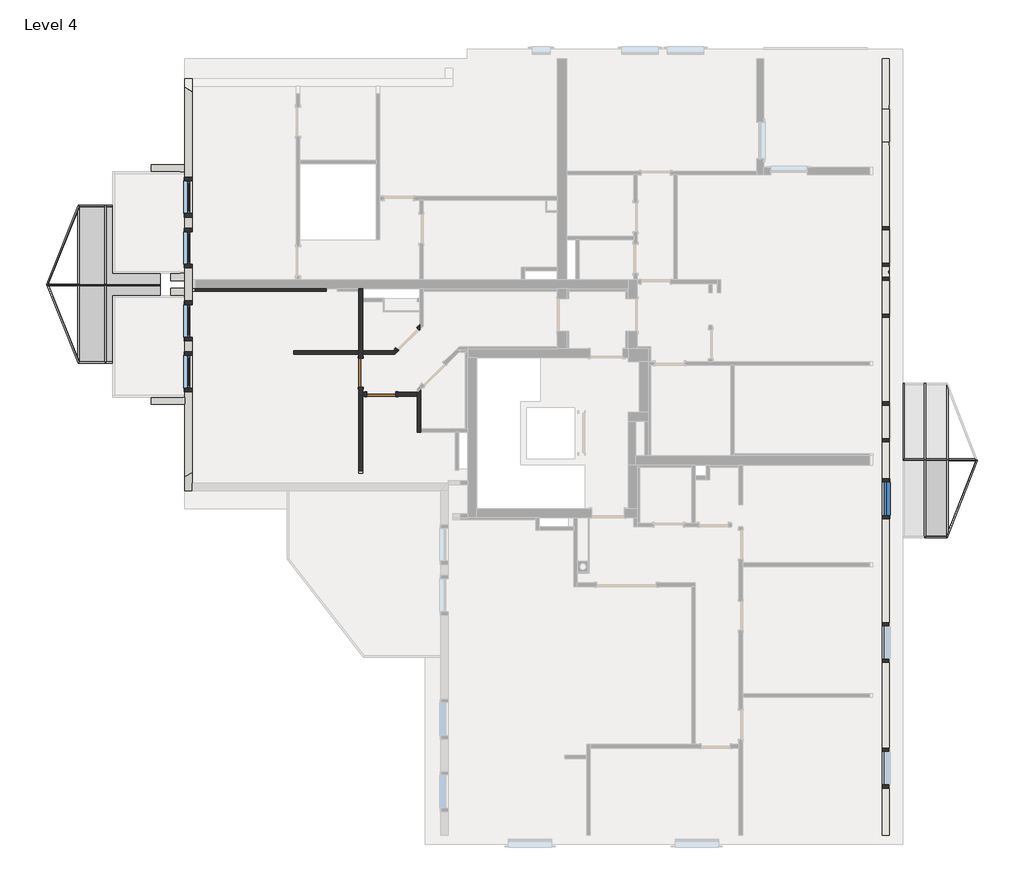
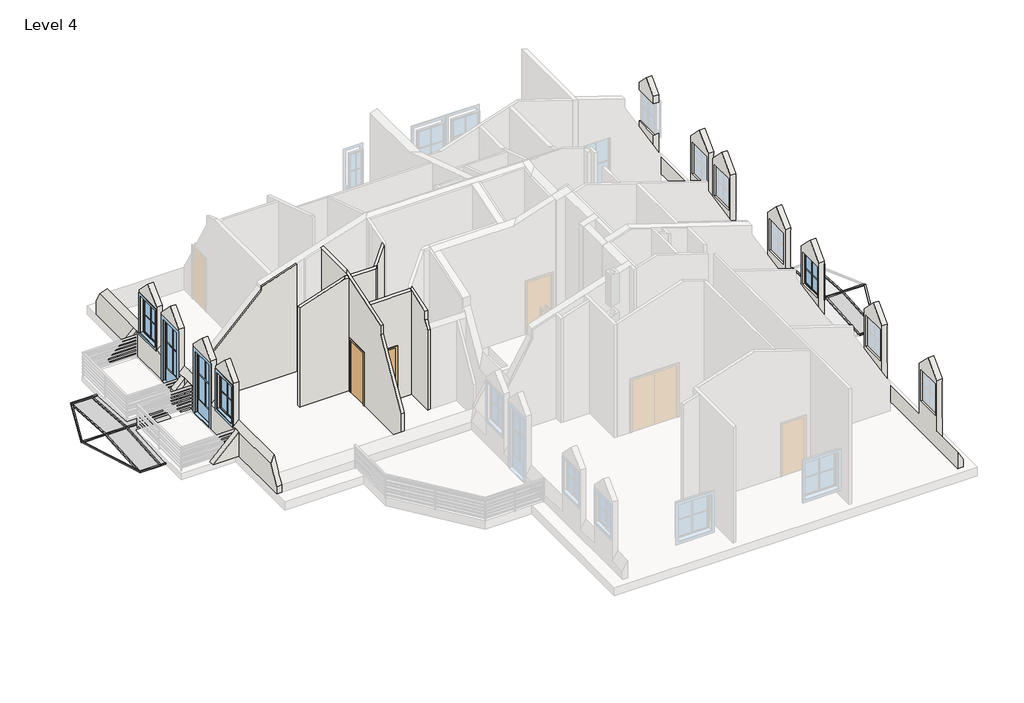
# One storey, part 2 of 4: 23 members, 13 walls, 5 plates, 5 windows, 2 doors.
"""IFC4 building model written with IfcOpenShell, lengths in millimetres."""

from ifc_helpers import new_model, si_unit, frame, origin, place, context, project, spatial, polyline, outline, extrude, faceted_brep, transform, mapped, element, save
from components import standard_door_sd_800x2000_6a16926d, rectangular_mullion_40_40_c07c6f16, rectangular_mullion_40_40_c2750e26, rectangular_mullion_40_40_65788530, rectangular_mullion_40_40_b48b72c3, rectangular_mullion_40_40_590cdca0, rectangular_mullion_40_40_5d815b55, rectangular_mullion_40_40_14cc0a15, rectangular_mullion_40_40_db6aeea2, rectangular_mullion_40_40_e7126e77, rectangular_mullion_40_40_ece98a2e, rectangular_mullion_40_40_458ec4b7, rectangular_mullion_40_40_953930e1, rectangular_mullion_40_40_e268152e, rectangular_mullion_40_40_4fb1e333, rectangular_mullion_40_40_b2ab2fb7, rectangular_mullion_40_40_0157c378, rectangular_mullion_40_40_89549069, rectangular_mullion_40_40_147f6145, rectangular_mullion_40_40_78ab8ff1, system_panel_system_panel_37f665d0, system_panel_system_panel_7bef43a2, system_panel_system_panel_15dd2017, system_panel_system_panel_e4e5b0d0, system_panel_system_panel_76da7413, standard_window_with_mullions_4ddc0d11, standard_window_with_mullions_4f38f980, window_2_c3f3d78e, window_2_1320fec1

model = new_model("IFC4")

# Units and contexts
model_context = context("Model", 3, world=origin())
ifc_project = project(units=[si_unit("LENGTHUNIT", "METRE", prefix="MILLI")], contexts=[model_context])

# Site, building, storey
site = spatial("IfcSite", under=ifc_project)
building = spatial("IfcBuilding", under=site)
storey = spatial("IfcBuildingStorey", under=building, Name="Level 4", Elevation=11800.0)

# Doors
placement = place(None, origin())
standard_door_sd_800x2000_shape = standard_door_sd_800x2000_6a16926d(model_context)
element("IfcDoor", 1, ObjectType="Standard Door : SD 800x2000", at=placement, inside=storey, context=model_context, shape_type="MappedRepresentation", body=[
    mapped(standard_door_sd_800x2000_shape, transform((-5807.1962165, 1908.3946515, 11800.0), x_axis=(0.0, -1.0, 0.0), y_axis=(1.0, 0.0, 0.0), z_axis=(0.0, 0.0, 1.0))),
])
element("IfcDoor", 2, ObjectType="Standard Door : SD 800x2000", at=placement, inside=storey, context=model_context, shape_type="MappedRepresentation", body=[
    mapped(standard_door_sd_800x2000_shape, transform((-5239.8211798, 1317.6290541, 11800.0), x_axis=(1.0, 0.0, 0.0), y_axis=(0.0, 1.0, 0.0), z_axis=(0.0, 0.0, 1.0))),
])

# Members
rectangular_mullion_40_40_shape = rectangular_mullion_40_40_c07c6f16(model_context)
element("IfcMember", 3, ObjectType="Rectangular Mullion : 40/40", at=placement, inside=storey, context=model_context, shape_type="MappedRepresentation", body=[
    mapped(rectangular_mullion_40_40_shape, transform((-12817.1962165, 4342.6290541, 11681.4726398), x_axis=(0.0, 0.9975640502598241, 0.06975647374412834), y_axis=(0.0, 0.06975647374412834, -0.9975640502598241), z_axis=(-1.0, 0.0, 0.0))),
])
rectangular_mullion_40_40_2_shape = rectangular_mullion_40_40_c2750e26(model_context)
element("IfcMember", 4, ObjectType="Rectangular Mullion : 40/40", at=placement, inside=storey, context=model_context, shape_type="MappedRepresentation", body=[
    mapped(rectangular_mullion_40_40_2_shape, transform((-13567.1962165, 4342.6290541, 11681.4726398), x_axis=(0.0, 0.9975640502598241, 0.06975647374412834), y_axis=(0.0, 0.06975647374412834, -0.9975640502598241), z_axis=(-1.0, 0.0, 0.0))),
])
rectangular_mullion_40_40_3_shape = rectangular_mullion_40_40_65788530(model_context)
element("IfcMember", 5, ObjectType="Rectangular Mullion : 40/40", at=placement, inside=storey, context=model_context, shape_type="MappedRepresentation", body=[
    mapped(rectangular_mullion_40_40_3_shape, transform((10338.0299794, -507.3709459, 11678.5944754), x_axis=(0.0, -0.9975640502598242, 0.06975647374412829), y_axis=(0.0, -0.06975647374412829, -0.9975640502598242), z_axis=(1.0, 0.0, 0.0))),
])
rectangular_mullion_40_40_4_shape = rectangular_mullion_40_40_b48b72c3(model_context)
element("IfcMember", 6, ObjectType="Rectangular Mullion : 40/40", at=placement, inside=storey, context=model_context, shape_type="MappedRepresentation", body=[
    mapped(rectangular_mullion_40_40_4_shape, transform((9725.4168815, -507.3709459, 11678.5944754), x_axis=(0.0, -0.9975640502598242, 0.06975647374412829), y_axis=(0.0, -0.06975647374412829, -0.9975640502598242), z_axis=(1.0, 0.0, 0.0))),
])
rectangular_mullion_40_40_5_shape = rectangular_mullion_40_40_590cdca0(model_context)
element("IfcMember", 7, ObjectType="Rectangular Mullion : 40/40", at=placement, inside=storey, context=model_context, shape_type="MappedRepresentation", body=[
    mapped(rectangular_mullion_40_40_5_shape, transform((-12837.1962165, 4342.6290541, 11681.4726398), x_axis=(1.0, 0.0, 0.0), y_axis=(0.0, 0.06975647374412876, -0.997564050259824), z_axis=(0.0, 0.997564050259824, 0.06975647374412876))),
])
element("IfcMember", 8, ObjectType="Rectangular Mullion : 40/40", at=placement, inside=storey, context=model_context, shape_type="MappedRepresentation", body=[
    mapped(rectangular_mullion_40_40_shape, transform((-12817.1962165, 6517.6290541, 11529.3818239), x_axis=(0.0, 0.9975640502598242, -0.06975647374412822), y_axis=(0.0, -0.06975647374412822, -0.9975640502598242), z_axis=(-1.0, 0.0, 0.0))),
])
element("IfcMember", 9, ObjectType="Rectangular Mullion : 40/40", at=placement, inside=storey, context=model_context, shape_type="MappedRepresentation", body=[
    mapped(rectangular_mullion_40_40_shape, transform((-11337.1962165, 2167.6290541, 11529.3818239), x_axis=(0.0, -0.9975640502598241, -0.06975647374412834), y_axis=(0.0, 0.06975647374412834, -0.9975640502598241), z_axis=(1.0, 0.0, 0.0))),
])
rectangular_mullion_40_40_6_shape = rectangular_mullion_40_40_5d815b55(model_context)
element("IfcMember", 10, ObjectType="Rectangular Mullion : 40/40", at=placement, inside=storey, context=model_context, shape_type="MappedRepresentation", body=[
    mapped(rectangular_mullion_40_40_6_shape, transform((9745.4168815, -507.3709459, 11678.5944754), x_axis=(-1.0, 0.0, 0.0), y_axis=(0.0, -0.0697564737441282, -0.9975640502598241), z_axis=(0.0, -0.997564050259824, 0.06975647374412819))),
])
rectangular_mullion_40_40_7_shape = rectangular_mullion_40_40_14cc0a15(model_context)
element("IfcMember", 11, ObjectType="Rectangular Mullion : 40/40", at=placement, inside=storey, context=model_context, shape_type="MappedRepresentation", body=[
    mapped(rectangular_mullion_40_40_7_shape, transform((9132.8037835, -507.3709459, 11678.5944754), x_axis=(-1.0, 0.0, 0.0), y_axis=(0.0, -0.0697564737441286, -0.9975640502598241), z_axis=(0.0, -0.997564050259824, 0.06975647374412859))),
])
element("IfcMember", 12, ObjectType="Rectangular Mullion : 40/40", at=placement, inside=storey, context=model_context, shape_type="MappedRepresentation", body=[
    mapped(rectangular_mullion_40_40_5_shape, transform((-12837.1962165, 4342.6290541, 11681.4726398), x_axis=(-1.0, 0.0, 0.0), y_axis=(0.0, -0.06975647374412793, -0.9975640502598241), z_axis=(0.0, -0.997564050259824, 0.06975647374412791))),
])
element("IfcMember", 13, ObjectType="Rectangular Mullion : 40/40", at=placement, inside=storey, context=model_context, shape_type="MappedRepresentation", body=[
    mapped(rectangular_mullion_40_40_6_shape, transform((9745.4168815, -507.3709459, 11678.5944754), x_axis=(1.0, 0.0, 0.0), y_axis=(0.0, 0.06975647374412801, -0.9975640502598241), z_axis=(0.0, 0.997564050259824, 0.069756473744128))),
])
rectangular_mullion_40_40_8_shape = rectangular_mullion_40_40_db6aeea2(model_context)
element("IfcMember", 14, ObjectType="Rectangular Mullion : 40/40", at=placement, inside=storey, context=model_context, shape_type="MappedRepresentation", body=[
    mapped(rectangular_mullion_40_40_8_shape, transform((-13587.1962165, 4342.6290541, 11681.4726398), x_axis=(1.0, 0.0, 0.0), y_axis=(0.0, 0.06975647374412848, -0.9975640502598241), z_axis=(0.0, 0.997564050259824, 0.06975647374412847))),
])
rectangular_mullion_40_40_9_shape = rectangular_mullion_40_40_e7126e77(model_context)
element("IfcMember", 15, ObjectType="Rectangular Mullion : 40/40", at=placement, inside=storey, context=model_context, shape_type="MappedRepresentation", body=[
    mapped(rectangular_mullion_40_40_9_shape, transform((-13587.1962165, 4342.6290541, 11681.4726398), x_axis=(-1.0, 0.0, 0.0), y_axis=(0.0, -0.06975647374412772, -0.9975640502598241), z_axis=(0.0, -0.9975640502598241, 0.06975647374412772))),
])
rectangular_mullion_40_40_10_shape = rectangular_mullion_40_40_ece98a2e(model_context)
element("IfcMember", 16, ObjectType="Rectangular Mullion : 40/40", at=placement, inside=storey, context=model_context, shape_type="MappedRepresentation", body=[
    mapped(rectangular_mullion_40_40_10_shape, transform((-14465.4329195, 4342.6290541, 11681.4726398), x_axis=(0.0, 0.9975640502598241, 0.06975647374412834), y_axis=(0.0, 0.06975647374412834, -0.9975640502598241), z_axis=(-1.0, 0.0, 0.0))),
])
rectangular_mullion_40_40_11_shape = rectangular_mullion_40_40_458ec4b7(model_context)
element("IfcMember", 17, ObjectType="Rectangular Mullion : 40/40", at=placement, inside=storey, context=model_context, shape_type="MappedRepresentation", body=[
    mapped(rectangular_mullion_40_40_11_shape, transform((-13587.1962165, 6517.6290541, 11529.3818239), x_axis=(0.0, 0.9975640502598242, -0.06975647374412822), y_axis=(0.0, -0.06975647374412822, -0.9975640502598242), z_axis=(-1.0, 0.0, 0.0))),
])
rectangular_mullion_40_40_12_shape = rectangular_mullion_40_40_953930e1(model_context)
element("IfcMember", 18, ObjectType="Rectangular Mullion : 40/40", at=placement, inside=storey, context=model_context, shape_type="MappedRepresentation", body=[
    mapped(rectangular_mullion_40_40_12_shape, transform((-12857.1962165, 2167.6290541, 11529.3818239), x_axis=(0.0, -0.9975640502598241, -0.06975647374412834), y_axis=(0.0, 0.06975647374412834, -0.9975640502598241), z_axis=(1.0, 0.0, 0.0))),
])
rectangular_mullion_40_40_13_shape = rectangular_mullion_40_40_e268152e(model_context)
element("IfcMember", 19, ObjectType="Rectangular Mullion : 40/40", at=placement, inside=storey, context=model_context, shape_type="MappedRepresentation", body=[
    mapped(rectangular_mullion_40_40_13_shape, transform((-13587.1962165, 2167.6290541, 11529.3818239), x_axis=(-0.9275773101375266, -0.3727211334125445, -0.026063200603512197), y_axis=(0.0, 0.06975647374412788, -0.9975640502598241), z_axis=(0.37363128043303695, -0.925317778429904, -0.06470452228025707))),
])
rectangular_mullion_40_40_14_shape = rectangular_mullion_40_40_4fb1e333(model_context)
element("IfcMember", 20, ObjectType="Rectangular Mullion : 40/40", at=placement, inside=storey, context=model_context, shape_type="MappedRepresentation", body=[
    mapped(rectangular_mullion_40_40_14_shape, transform((-14465.4329195, 4342.6290541, 11681.4726398), x_axis=(-0.9275773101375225, 0.37272113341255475, -0.026063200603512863), y_axis=(0.0, -0.06975647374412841, -0.9975640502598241), z_axis=(-0.37363128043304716, -0.9253177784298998, 0.06470452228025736))),
])
rectangular_mullion_40_40_15_shape = rectangular_mullion_40_40_b2ab2fb7(model_context)
element("IfcMember", 21, ObjectType="Rectangular Mullion : 40/40", at=placement, inside=storey, context=model_context, shape_type="MappedRepresentation", body=[
    mapped(rectangular_mullion_40_40_15_shape, transform((10358.0299794, -507.3709459, 11678.5944754), x_axis=(-1.0, 0.0, 0.0), y_axis=(0.0, -0.06975647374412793, -0.9975640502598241), z_axis=(0.0, -0.9975640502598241, 0.06975647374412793))),
])
rectangular_mullion_40_40_16_shape = rectangular_mullion_40_40_0157c378(model_context)
element("IfcMember", 22, ObjectType="Rectangular Mullion : 40/40", at=placement, inside=storey, context=model_context, shape_type="MappedRepresentation", body=[
    mapped(rectangular_mullion_40_40_16_shape, transform((10358.0299794, -507.3709459, 11678.5944754), x_axis=(1.0, 0.0, 0.0), y_axis=(0.0, 0.06975647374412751, -0.9975640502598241), z_axis=(0.0, 0.997564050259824, 0.0697564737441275))),
])
rectangular_mullion_40_40_17_shape = rectangular_mullion_40_40_89549069(model_context)
element("IfcMember", 23, ObjectType="Rectangular Mullion : 40/40", at=placement, inside=storey, context=model_context, shape_type="MappedRepresentation", body=[
    mapped(rectangular_mullion_40_40_17_shape, transform((11184.5471242, -507.3709459, 11678.5944754), x_axis=(0.9322837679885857, -0.3608466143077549, -0.02523285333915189), y_axis=(0.0, 0.06975647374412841, -0.9975640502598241), z_axis=(0.36172776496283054, 0.9300127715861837, 0.0650328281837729))),
])
rectangular_mullion_40_40_18_shape = rectangular_mullion_40_40_147f6145(model_context)
element("IfcMember", 24, ObjectType="Rectangular Mullion : 40/40", at=placement, inside=storey, context=model_context, shape_type="MappedRepresentation", body=[
    mapped(rectangular_mullion_40_40_18_shape, transform((11184.5471242, -507.3709459, 11678.5944754), x_axis=(0.0, -0.9975640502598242, 0.06975647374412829), y_axis=(0.0, -0.06975647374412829, -0.9975640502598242), z_axis=(1.0, 0.0, 0.0))),
])
rectangular_mullion_40_40_19_shape = rectangular_mullion_40_40_78ab8ff1(model_context)
element("IfcMember", 25, ObjectType="Rectangular Mullion : 40/40", at=placement, inside=storey, context=model_context, shape_type="MappedRepresentation", body=[
    mapped(rectangular_mullion_40_40_19_shape, transform((10358.0299794, -2632.3709459, 11530.0), x_axis=(0.0, -0.9975640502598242, -0.06975647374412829), y_axis=(0.0, 0.06975647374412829, -0.9975640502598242), z_axis=(1.0, 0.0, 0.0))),
])

# Plates
system_panel_system_panel_shape = system_panel_system_panel_37f665d0(model_context)
element("IfcPlate", 26, ObjectType="System Panel : System Panel", at=placement, inside=storey, context=model_context, shape_type="MappedRepresentation", body=[
    mapped(system_panel_system_panel_shape, transform((-12077.1962165, 6477.7264921, 11532.1720828), x_axis=(-1.0, 0.0, 0.0), y_axis=(0.0, -0.06975647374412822, -0.9975640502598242), z_axis=(0.0, -0.9975640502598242, 0.06975647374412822))),
])
system_panel_system_panel_2_shape = system_panel_system_panel_7bef43a2(model_context)
element("IfcPlate", 27, ObjectType="System Panel : System Panel", at=placement, inside=storey, context=model_context, shape_type="MappedRepresentation", body=[
    mapped(system_panel_system_panel_2_shape, transform((-12077.1962165, 2207.5316161, 11532.1720828), x_axis=(1.0, 0.0, 0.0), y_axis=(0.0, 0.06975647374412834, -0.9975640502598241), z_axis=(0.0, 0.9975640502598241, 0.06975647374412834))),
])
system_panel_system_panel_3_shape = system_panel_system_panel_15dd2017(model_context)
element("IfcPlate", 28, ObjectType="System Panel : System Panel", at=placement, inside=storey, context=model_context, shape_type="MappedRepresentation", body=[
    mapped(system_panel_system_panel_3_shape, transform((-13212.1962165, 2207.5316161, 11532.1720828), x_axis=(1.0, 0.0, 0.0), y_axis=(0.0, 0.06975647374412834, -0.9975640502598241), z_axis=(0.0, 0.9975640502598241, 0.06975647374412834))),
])
system_panel_system_panel_4_shape = system_panel_system_panel_e4e5b0d0(model_context)
element("IfcPlate", 29, ObjectType="System Panel : System Panel", at=placement, inside=storey, context=model_context, shape_type="MappedRepresentation", body=[
    mapped(system_panel_system_panel_4_shape, transform((-13212.1962165, 6477.7264921, 11532.1720828), x_axis=(-1.0, 0.0, 0.0), y_axis=(0.0, -0.06975647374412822, -0.9975640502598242), z_axis=(0.0, -0.9975640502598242, 0.06975647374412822))),
])
system_panel_system_panel_5_shape = system_panel_system_panel_76da7413(model_context)
element("IfcPlate", 30, ObjectType="System Panel : System Panel", at=placement, inside=storey, context=model_context, shape_type="MappedRepresentation", body=[
    mapped(system_panel_system_panel_5_shape, transform((10051.7234305, -2592.4683839, 11532.7902589), x_axis=(1.0, 0.0, 0.0), y_axis=(0.0, 0.06975647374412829, -0.9975640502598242), z_axis=(0.0, 0.9975640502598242, 0.06975647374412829))),
])

# Walls
element("IfcWall", 31, ObjectType="Exterior - 150+50mm", at=placement, inside=storey, context=model_context, shape_type="Brep", body=[
    faceted_brep([(-10456.4352243, -1338.1208451, 11800.0), (-10656.4352243, -1338.1208451, 11800.0), (-10656.4352243, 1037.6290541, 11800.0), (-10656.4352243, 1237.6290541, 11800.0), (-10656.4352243, 2882.6290541, 11800.0), (-10456.4352243, 2882.6290541, 11800.0), (-10456.4352243, -1138.1208451, 11800.0), (-10656.4352243, 10007.6290541, 11800.0), (-10456.4352243, 10007.6290541, 11800.0), (-10456.4352243, 9807.6290541, 11800.0), (-10456.4352243, 5797.6290541, 11800.0), (-10656.4352243, 5797.6290541, 11800.0), (-10656.4352243, 7447.6290541, 11800.0), (-10656.4352243, 7647.6290541, 11800.0), (-10656.4352243, 4897.6290541, 11800.0), (-10456.4352243, 4897.6290541, 11800.0), (-10456.4352243, 4467.6290541, 11800.0), (-10456.4352243, 4217.6290541, 11800.0), (-10456.4352243, 4152.6290541, 11800.0), (-10456.4352243, 3782.6290541, 11800.0), (-10656.4352243, 3782.6290541, 11800.0), (-10656.4352243, 4037.6290541, 11800.0), (-10656.4352243, 4237.6290541, 11800.0), (-10656.4352243, 4447.6290541, 11800.0), (-10656.4352243, 4647.6290541, 11800.0), (-10656.4352243, -1338.1208451, 12079.795831), (-10656.4352243, -962.2859339, 12730.7609923), (-10656.4352243, 1037.6290541, 12730.7609923), (-10656.4352243, 1237.6290541, 12730.7609923), (-10656.4352243, 1387.6290541, 12730.7609923), (-10656.4352243, 1387.6290541, 14387.8679656), (-10656.4352243, 1937.6290541, 14937.8679656), (-10656.4352243, 2487.6290541, 14387.8679656), (-10656.4352243, 2487.6290541, 12730.7609923), (-10656.4352243, 2787.6290541, 12730.7609923), (-10656.4352243, 2787.6290541, 14387.8679656), (-10656.4352243, 3337.6290541, 14937.8679656), (-10656.4352243, 3887.6290541, 14387.8679656), (-10656.4352243, 3887.6290541, 12730.7609923), (-10656.4352243, 4037.6290541, 12730.7609923), (-10656.4352243, 4237.6290541, 12730.7609923), (-10656.4352243, 4447.6290541, 12730.7609923), (-10656.4352243, 4647.6290541, 12730.7609923), (-10656.4352243, 4797.6290541, 12730.7609923), (-10656.4352243, 4797.6290541, 14387.8679656), (-10656.4352243, 5347.6290541, 14937.8679656), (-10656.4352243, 5897.6290541, 14387.8679656), (-10656.4352243, 5897.6290541, 12730.7609923), (-10656.4352243, 6197.6290541, 12730.7609923), (-10656.4352243, 6197.6290541, 14387.8679656), (-10656.4352243, 6747.6290541, 14937.8679656), (-10656.4352243, 7297.6290541, 14387.8679656), (-10656.4352243, 7297.6290541, 12730.7609923), (-10656.4352243, 7447.6290541, 12730.7609923), (-10656.4352243, 7647.6290541, 12730.7609923), (-10656.4352243, 9771.3426296, 12730.7609923), (-10656.4352243, 10007.6290541, 12321.5009), (-10656.4352243, 5797.6290541, 14200.0), (-10656.4352243, 4897.6290541, 14200.0), (-10656.4352243, 3782.6290541, 14200.0), (-10656.4352243, 2882.6290541, 14200.0), (-10656.4352243, 1487.6290541, 14200.0), (-10656.4352243, 1487.6290541, 12800.0), (-10656.4352243, 2387.6290541, 12800.0), (-10656.4352243, 2387.6290541, 14200.0), (-10656.4352243, 6297.6290541, 14200.0), (-10656.4352243, 6297.6290541, 12800.0), (-10656.4352243, 7197.6290541, 12800.0), (-10656.4352243, 7197.6290541, 14200.0), (-10456.4352243, -1338.1208451, 12079.795831), (-10456.4352243, 2882.6290541, 14200.0), (-10456.4352243, 3782.6290541, 14200.0), (-10456.4352243, 4897.6290541, 14200.0), (-10456.4352243, 5797.6290541, 14200.0), (-10456.4352243, 10007.6290541, 12321.5009), (-10456.4352243, 9807.6290541, 12667.9110615), (-10456.4352243, 9655.8725758, 12930.7609923), (-10456.4352243, 7297.6290541, 12930.7609923), (-10456.4352243, 7297.6290541, 14387.8679656), (-10456.4352243, 6747.6290541, 14937.8679656), (-10456.4352243, 6197.6290541, 14387.8679656), (-10456.4352243, 6197.6290541, 12930.7609923), (-10456.4352243, 5897.6290541, 12930.7609923), (-10456.4352243, 5897.6290541, 14387.8679656), (-10456.4352243, 5347.6290541, 14937.8679656), (-10456.4352243, 4797.6290541, 14387.8679656), (-10456.4352243, 4797.6290541, 12930.7609923), (-10456.4352243, 4467.6290541, 12930.7609923), (-10456.4352243, 4217.6290541, 12930.7609923), (-10456.4352243, 4152.6290541, 12930.7609923), (-10456.4352243, 3887.6290541, 12930.7609923), (-10456.4352243, 3887.6290541, 14387.8679656), (-10456.4352243, 3337.6290541, 14937.8679656), (-10456.4352243, 2787.6290541, 14387.8679656), (-10456.4352243, 2787.6290541, 12930.7609923), (-10456.4352243, 2487.6290541, 12930.7609923), (-10456.4352243, 2487.6290541, 14387.8679656), (-10456.4352243, 1937.6290541, 14937.8679656), (-10456.4352243, 1387.6290541, 14387.8679656), (-10456.4352243, 1387.6290541, 12930.7609923), (-10456.4352243, -846.8158801, 12930.7609923), (-10456.4352243, -1138.1208451, 12426.2059925), (-10456.4352243, 1487.6290541, 12800.0), (-10456.4352243, 1487.6290541, 14200.0), (-10456.4352243, 2387.6290541, 14200.0), (-10456.4352243, 2387.6290541, 12800.0), (-10456.4352243, 6297.6290541, 12800.0), (-10456.4352243, 6297.6290541, 14200.0), (-10456.4352243, 7197.6290541, 14200.0), (-10456.4352243, 7197.6290541, 12800.0)], [[[0, 1, 2, 3, 4, 5, 6]], [[7, 8, 9, 10, 11, 12, 13]], [[14, 15, 16, 17, 18, 19, 20, 21, 22, 23, 24]], [[1, 25, 26, 27, 28, 29, 30, 31, 32, 33, 34, 35, 36, 37, 38, 39, 40, 41, 42, 43, 44, 45, 46, 47, 48, 49, 50, 51, 52, 53, 54, 55, 56, 7, 13, 12, 11, 57, 58, 14, 24, 23, 22, 21, 20, 59, 60, 4, 3, 2], [61, 62, 63, 64], [65, 66, 67, 68]], [[69, 0, 6, 5, 70, 71, 19, 18, 17, 16, 15, 72, 73, 10, 9, 8, 74, 75, 76, 77, 78, 79, 80, 81, 82, 83, 84, 85, 86, 87, 88, 89, 90, 91, 92, 93, 94, 95, 96, 97, 98, 99, 100, 101], [102, 103, 104, 105], [106, 107, 108, 109]], [[25, 1, 0, 69]], [[7, 56, 74, 8]], [[98, 30, 29, 99]], [[32, 96, 95, 33]], [[93, 35, 34, 94]], [[37, 91, 90, 38]], [[85, 44, 43, 86]], [[46, 83, 82, 47]], [[80, 49, 48, 81]], [[51, 78, 77, 52]], [[52, 77, 76, 55, 54, 53]], [[25, 69, 101, 100, 26]], [[74, 56, 55, 76, 75]], [[48, 47, 82, 81]], [[38, 90, 89, 88, 87, 86, 43, 42, 41, 40, 39]], [[34, 33, 95, 94]], [[99, 29, 28, 27, 26, 100]], [[83, 46, 45, 84]], [[44, 85, 84, 45]], [[78, 51, 50, 79]], [[49, 80, 79, 50]], [[91, 37, 36, 92]], [[35, 93, 92, 36]], [[96, 32, 31, 97]], [[30, 98, 97, 31]], [[58, 72, 15, 14]], [[72, 58, 57, 73]], [[73, 57, 11, 10]], [[71, 59, 20, 19]], [[59, 71, 70, 60]], [[60, 70, 5, 4]], [[103, 102, 62, 61]], [[104, 103, 61, 64]], [[105, 104, 64, 63]], [[102, 105, 63, 62]], [[106, 66, 65, 107]], [[107, 65, 68, 108]], [[108, 68, 67, 109]], [[66, 106, 109, 67]]]),
])
element("IfcWall", 32, ObjectType="Exterior - 150+50mm", at=placement, inside=storey, context=model_context, shape_type="SweptSolid", body=[
    extrude(outline(polyline([(11800.0, -10656.4352243), (12730.7609923, -10656.4352243), (11800.0, -11587.1962165), (11800.0, -10656.4352243)])), frame((0.0, 7447.6290541, 0.0), z_axis=(0.0, 1.0, 0.0), x_axis=(0.0, 0.0, 1.0)), (0.0, 0.0, 1.0), 200.0),
])
element("IfcWall", 33, ObjectType="Exterior - 150+50mm", at=placement, inside=storey, context=model_context, shape_type="Brep", body=[
    faceted_brep([(8557.3155772, -10832.3709459, 11800.0), (8557.3155772, 10567.6290541, 11800.0), (8757.3155772, 10567.6290541, 11800.0), (8757.3155772, -10832.3709459, 11800.0), (8557.3155772, 8275.6927772, 12437.9668213), (8557.3155772, 8275.6927772, 13000.0), (8557.3155772, 9175.6927772, 13000.0), (8557.3155772, 9175.6927772, 12437.9668213), (8557.3155772, 9275.6927772, 12437.9668213), (8557.3155772, 10567.6290541, 12437.9668213), (8557.3155772, -10832.3709459, 12437.9668213), (8557.3155772, -9532.3709459, 12437.9668213), (8557.3155772, -9532.3709459, 14387.8679656), (8557.3155772, -8982.3709459, 14937.8679656), (8557.3155772, -8432.3709459, 14387.8679656), (8557.3155772, -8432.3709459, 12437.9668213), (8557.3155772, -6074.0530367, 12437.9668213), (8557.3155772, -6074.0530367, 14387.8679656), (8557.3155772, -5524.0530367, 14937.8679656), (8557.3155772, -4974.0530367, 14387.8679656), (8557.3155772, -4974.0530367, 12437.9668213), (8557.3155772, -2113.5367865, 12437.9668213), (8557.3155772, -2113.5367865, 14387.8679656), (8557.3155772, -1563.5367865, 14937.8679656), (8557.3155772, -1013.5367865, 14387.8679656), (8557.3155772, -1013.5367865, 12437.9668213), (8557.3155772, 5.9947187, 12437.9668213), (8557.3155772, 5.9947187, 14387.8679656), (8557.3155772, 555.9947187, 14937.8679656), (8557.3155772, 1105.9947187, 14387.8679656), (8557.3155772, 1105.9947187, 12437.9668213), (8557.3155772, 3438.4530256, 12437.9668213), (8557.3155772, 3438.4530256, 14387.8679656), (8557.3155772, 3988.4530256, 14937.8679656), (8557.3155772, 4538.4530256, 14387.8679656), (8557.3155772, 4538.4530256, 12437.9668213), (8557.3155772, 4838.4530256, 12437.9668213), (8557.3155772, 4838.4530256, 14387.8679656), (8557.3155772, 5388.4530256, 14937.8679656), (8557.3155772, 5938.4530256, 14387.8679656), (8557.3155772, 5938.4530256, 12437.9668213), (8557.3155772, 8175.6927772, 12437.9668213), (8557.3155772, 4438.4530256, 13000.0), (8557.3155772, 4438.4530256, 14200.0), (8557.3155772, 3538.4530256, 14200.0), (8557.3155772, 3538.4530256, 13000.0), (8557.3155772, 5838.4530256, 13000.0), (8557.3155772, 5838.4530256, 14200.0), (8557.3155772, 4938.4530256, 14200.0), (8557.3155772, 4938.4530256, 13000.0), (8557.3155772, 1005.9947187, 13000.0), (8557.3155772, 1005.9947187, 14200.0), (8557.3155772, 105.9947187, 14200.0), (8557.3155772, 105.9947187, 13000.0), (8557.3155772, -1113.5367865, 13000.0), (8557.3155772, -1113.5367865, 14200.0), (8557.3155772, -2013.5367865, 14200.0), (8557.3155772, -2013.5367865, 13000.0), (8557.3155772, -5074.0530367, 13000.0), (8557.3155772, -5074.0530367, 14200.0), (8557.3155772, -5974.0530367, 14200.0), (8557.3155772, -5974.0530367, 13000.0), (8557.3155772, -8532.3709459, 13000.0), (8557.3155772, -8532.3709459, 14200.0), (8557.3155772, -9432.3709459, 14200.0), (8557.3155772, -9432.3709459, 13000.0), (8757.3155772, 9175.6927772, 13000.0), (8757.3155772, 8275.6927772, 13000.0), (8757.3155772, 8275.6927772, 12091.5566597), (8757.3155772, 5938.4530256, 12091.5566597), (8757.3155772, 5938.4530256, 14387.8679656), (8757.3155772, 5388.4530256, 14937.8679656), (8757.3155772, 4838.4530256, 14387.8679656), (8757.3155772, 4838.4530256, 12091.5566597), (8757.3155772, 4746.8963658, 12091.5566597), (8757.3155772, 4688.4530256, 12150.0), (8757.3155772, 4630.0096853, 12091.5566597), (8757.3155772, 4538.4530256, 12091.5566597), (8757.3155772, 4538.4530256, 14387.8679656), (8757.3155772, 3988.4530256, 14937.8679656), (8757.3155772, 3438.4530256, 14387.8679656), (8757.3155772, 3438.4530256, 12091.5566597), (8757.3155772, 1105.9947187, 12091.5566597), (8757.3155772, 1105.9947187, 14387.8679656), (8757.3155772, 555.9947187, 14937.8679656), (8757.3155772, 5.9947187, 14387.8679656), (8757.3155772, 5.9947187, 12091.5566597), (8757.3155772, -1013.5367865, 12091.5566597), (8757.3155772, -1013.5367865, 14387.8679656), (8757.3155772, -1563.5367865, 14937.8679656), (8757.3155772, -2113.5367865, 14387.8679656), (8757.3155772, -2113.5367865, 12091.5566597), (8757.3155772, -4974.0530367, 12091.5566597), (8757.3155772, -4974.0530367, 14387.8679656), (8757.3155772, -5524.0530367, 14937.8679656), (8757.3155772, -6074.0530367, 14387.8679656), (8757.3155772, -6074.0530367, 12091.5566597), (8757.3155772, -8432.3709459, 12091.5566597), (8757.3155772, -8432.3709459, 14387.8679656), (8757.3155772, -8982.3709459, 14937.8679656), (8757.3155772, -9532.3709459, 14387.8679656), (8757.3155772, -9532.3709459, 12091.5566597), (8757.3155772, -10832.3709459, 12091.5566597), (8757.3155772, 10567.6290541, 12091.5566597), (8757.3155772, 9175.6927772, 12091.5566597), (8757.3155772, 4438.4530256, 13000.0), (8757.3155772, 3538.4530256, 13000.0), (8757.3155772, 3538.4530256, 14200.0), (8757.3155772, 4438.4530256, 14200.0), (8757.3155772, 5838.4530256, 13000.0), (8757.3155772, 4938.4530256, 13000.0), (8757.3155772, 4938.4530256, 14200.0), (8757.3155772, 5838.4530256, 14200.0), (8757.3155772, 1005.9947187, 13000.0), (8757.3155772, 105.9947187, 13000.0), (8757.3155772, 105.9947187, 14200.0), (8757.3155772, 1005.9947187, 14200.0), (8757.3155772, -1113.5367865, 13000.0), (8757.3155772, -2013.5367865, 13000.0), (8757.3155772, -2013.5367865, 14200.0), (8757.3155772, -1113.5367865, 14200.0), (8757.3155772, -5074.0530367, 13000.0), (8757.3155772, -5974.0530367, 13000.0), (8757.3155772, -5974.0530367, 14200.0), (8757.3155772, -5074.0530367, 14200.0), (8757.3155772, -8532.3709459, 13000.0), (8757.3155772, -9432.3709459, 13000.0), (8757.3155772, -9432.3709459, 14200.0), (8757.3155772, -8532.3709459, 14200.0), (8723.5732989, 4688.4530256, 12150.0)], [[[0, 1, 2, 3]], [[4, 5, 6, 7, 8, 9, 1, 0, 10, 11, 12, 13, 14, 15, 16, 17, 18, 19, 20, 21, 22, 23, 24, 25, 26, 27, 28, 29, 30, 31, 32, 33, 34, 35, 36, 37, 38, 39, 40, 41], [42, 43, 44, 45], [46, 47, 48, 49], [50, 51, 52, 53], [54, 55, 56, 57], [58, 59, 60, 61], [62, 63, 64, 65]], [[66, 67, 68, 69, 70, 71, 72, 73, 74, 75, 76, 77, 78, 79, 80, 81, 82, 83, 84, 85, 86, 87, 88, 89, 90, 91, 92, 93, 94, 95, 96, 97, 98, 99, 100, 101, 102, 3, 2, 103, 104], [105, 106, 107, 108], [109, 110, 111, 112], [113, 114, 115, 116], [117, 118, 119, 120], [121, 122, 123, 124], [125, 126, 127, 128]], [[10, 0, 3, 102]], [[1, 9, 103, 2]], [[66, 104, 7, 6]], [[68, 67, 5, 4]], [[19, 93, 92, 20]], [[95, 17, 16, 96]], [[100, 12, 11, 101]], [[14, 98, 97, 15]], [[90, 22, 21, 91]], [[24, 88, 87, 25]], [[85, 27, 26, 86]], [[29, 83, 82, 30]], [[80, 32, 31, 81]], [[34, 78, 77, 35]], [[72, 37, 36, 73]], [[39, 70, 69, 40]], [[14, 13, 99, 98]], [[13, 12, 100, 99]], [[19, 18, 94, 93]], [[18, 17, 95, 94]], [[24, 23, 89, 88]], [[23, 22, 90, 89]], [[29, 28, 84, 83]], [[28, 27, 85, 84]], [[34, 33, 79, 78]], [[33, 32, 80, 79]], [[39, 38, 71, 70]], [[38, 37, 72, 71]], [[11, 10, 102, 101]], [[76, 75, 129]], [[75, 74, 129]], [[16, 15, 97, 96]], [[21, 20, 92, 91]], [[26, 25, 87, 86]], [[31, 30, 82, 81]], [[36, 35, 77, 76, 129, 74, 73]], [[4, 41, 40, 69, 68]], [[9, 8, 7, 104, 103]], [[6, 5, 67, 66]], [[43, 42, 105, 108]], [[44, 43, 108, 107]], [[45, 44, 107, 106]], [[42, 45, 106, 105]], [[47, 46, 109, 112]], [[48, 47, 112, 111]], [[49, 48, 111, 110]], [[46, 49, 110, 109]], [[51, 50, 113, 116]], [[52, 51, 116, 115]], [[53, 52, 115, 114]], [[50, 53, 114, 113]], [[55, 54, 117, 120]], [[56, 55, 120, 119]], [[57, 56, 119, 118]], [[54, 57, 118, 117]], [[59, 58, 121, 124]], [[60, 59, 124, 123]], [[61, 60, 123, 122]], [[58, 61, 122, 121]], [[63, 62, 125, 128]], [[64, 63, 128, 127]], [[65, 64, 127, 126]], [[62, 65, 126, 125]]]),
    faceted_brep([(8557.3155772, 8275.6927772, 14200.0), (8557.3155772, 8275.6927772, 14487.8679656), (8557.3155772, 8725.6927772, 14937.8679656), (8557.3155772, 9175.6927772, 14487.8679656), (8557.3155772, 9175.6927772, 14200.0), (8757.3155772, 8275.6927772, 14200.0), (8757.3155772, 9175.6927772, 14200.0), (8757.3155772, 9175.6927772, 14487.8679656), (8757.3155772, 8725.6927772, 14937.8679656), (8757.3155772, 8275.6927772, 14487.8679656)], [[[0, 1, 2, 3, 4]], [[5, 6, 7, 8, 9]], [[7, 6, 4, 3]], [[5, 9, 1, 0]], [[3, 2, 8, 7]], [[2, 1, 9, 8]], [[0, 4, 6, 5]]]),
])
element("IfcWall", 34, ObjectType="Exterior - 200mm", at=placement, inside=storey, context=model_context, shape_type="SweptSolid", body=[
    extrude(outline(polyline([(11800.0, -10656.4352243), (12730.7609923, -10656.4352243), (12350.0, -11037.1962165), (11800.0, -11037.1962165), (11800.0, -10656.4352243)])), frame((0.0, 4447.6290541, 0.0), z_axis=(0.0, 1.0, 0.0), x_axis=(0.0, 0.0, 1.0)), (0.0, 0.0, 1.0), 200.0),
])
element("IfcWall", 35, ObjectType="Exterior - 200mm", at=placement, inside=storey, context=model_context, shape_type="SweptSolid", body=[
    extrude(outline(polyline([(11800.0, -10656.4352243), (12730.7609923, -10656.4352243), (12350.0, -11037.1962165), (11800.0, -11037.1962165), (11800.0, -10656.4352243)])), frame((0.0, 4037.6290541, 0.0), z_axis=(0.0, 1.0, 0.0), x_axis=(0.0, 0.0, 1.0)), (0.0, 0.0, 1.0), 200.0),
])
element("IfcWall", 36, ObjectType="Exterior - 200mm", at=placement, inside=storey, context=model_context, shape_type="SweptSolid", body=[
    extrude(outline(polyline([(11800.0, -10656.4352243), (12730.7609923, -10656.4352243), (11800.0, -11587.1962165), (11800.0, -10656.4352243)])), frame((0.0, 1037.6290541, 0.0), z_axis=(0.0, 1.0, 0.0), x_axis=(0.0, 0.0, 1.0)), (0.0, 0.0, 1.0), 200.0),
])
element("IfcWall", 37, ObjectType="Interior - 100mm", at=placement, inside=storey, context=model_context, shape_type="Brep", body=[
    faceted_brep([(-5857.1962165, -857.3709459, 12912.479082), (-5857.1962165, -857.3709459, 11800.0), (-5757.1962165, -857.3709459, 11800.0), (-5757.1962165, -857.3709459, 12912.479082), (-5857.1962165, 1508.3946515, 11800.0), (-5757.1962165, 1508.3946515, 11800.0), (-5757.1962165, 1367.6290541, 11800.0), (-5757.1962165, 1267.6290541, 11800.0), (-5857.1962165, 2308.3946515, 11800.0), (-5857.1962165, 2417.6290541, 11800.0), (-5857.1962165, 2517.6290541, 11800.0), (-5857.1962165, 4152.6290541, 11800.0), (-5857.1962165, 4217.6290541, 11800.0), (-5757.1962165, 4217.6290541, 11800.0), (-5757.1962165, 3967.6290541, 11800.0), (-5757.1962165, 3867.6290541, 11800.0), (-5757.1962165, 2517.6290541, 11800.0), (-5757.1962165, 2417.6290541, 11800.0), (-5757.1962165, 2308.3946515, 11800.0), (-5857.1962165, 1508.3946515, 13800.0), (-5857.1962165, 437.0391776, 15154.4631818), (-5857.1962165, 437.0391776, 15495.936781), (-5857.1962165, 2417.6290541, 16139.4694421), (-5857.1962165, 2517.6290541, 16171.9614117), (-5857.1962165, 2601.6928783, 16199.2754039), (-5857.1962165, 4152.6290541, 16199.2754039), (-5857.1962165, 4217.6290541, 16199.2754039), (-5857.1962165, 2308.3946515, 13800.0), (-5757.1962165, 1508.3946515, 13800.0), (-5757.1962165, 2308.3946515, 13800.0), (-5757.1962165, 4217.6290541, 16231.7673735), (-5757.1962165, 2701.6928783, 16231.7673735), (-5757.1962165, 2517.6290541, 16171.9614117), (-5757.1962165, 2417.6290541, 16139.4694421), (-5757.1962165, 1367.6290541, 15798.303761), (-5757.1962165, 1267.6290541, 15765.8117914), (-5757.1962165, 437.0391776, 15495.936781), (-5757.1962165, 437.0391776, 15154.4631818)], [[[0, 1, 2, 3]], [[1, 4, 5, 6, 7, 2]], [[8, 9, 10, 11, 12, 13, 14, 15, 16, 17, 18]], [[19, 4, 1, 0, 20, 21, 22, 23, 24, 25, 26, 12, 11, 10, 9, 8, 27]], [[2, 7, 6, 5, 28, 29, 18, 17, 16, 15, 14, 13, 30, 31, 32, 33, 34, 35, 36, 37, 3]], [[12, 26, 30, 13]], [[20, 37, 36, 21]], [[20, 0, 3, 37]], [[26, 25, 24, 31, 30]], [[24, 23, 22, 21, 36, 35, 34, 33, 32, 31]], [[28, 5, 4, 19]], [[29, 28, 19, 27]], [[18, 29, 27, 8]]]),
])
element("IfcWall", 38, ObjectType="Interior - 100mm", at=placement, inside=storey, context=model_context, shape_type="Brep", body=[
    faceted_brep([(-7657.1962165, 2417.6290541, 11800.0), (-5857.1962165, 2417.6290541, 11800.0), (-5857.1962165, 2417.6290541, 16139.4694421), (-6041.2600407, 2417.6290541, 16139.4694421), (-7657.1962165, 2417.6290541, 15614.4199507), (-7657.1962165, 2517.6290541, 11800.0), (-7657.1962165, 2517.6290541, 15614.4199507), (-5941.2600407, 2517.6290541, 16171.9614117), (-5857.1962165, 2517.6290541, 16171.9614117), (-5857.1962165, 2517.6290541, 11800.0)], [[[0, 1, 2, 3, 4]], [[5, 6, 7, 8, 9]], [[1, 0, 5, 9]], [[0, 4, 6, 5]], [[2, 1, 9, 8]], [[4, 3, 7, 6]], [[3, 2, 8, 7]]]),
])
element("IfcWall", 39, ObjectType="Interior - 100mm", at=placement, inside=storey, context=model_context, shape_type="Brep", body=[
    faceted_brep([(-4187.1962165, 3235.1475855, 11800.0), (-4187.1962165, 3094.8273477, 11800.0), (-4197.156458, 3085.0228221, 11800.0), (-4267.3078678, 3156.2883798, 11800.0), (-4773.5615997, 2517.6290541, 11800.0), (-4916.11041, 2517.6290541, 11800.0), (-4837.432329, 2595.0771016, 11800.0), (-4767.2809192, 2523.811544, 11800.0), (-4187.1962165, 3235.1475855, 16405.097315), (-4267.3078678, 3156.2883798, 13800.0), (-4837.432329, 2595.0771016, 13800.0), (-4916.11041, 2517.6290541, 16171.9614117), (-4187.1962165, 3094.8273477, 16359.5045059), (-4773.5615997, 2517.6290541, 16171.9614117), (-4767.2809192, 2523.811544, 13800.0), (-4197.156458, 3085.0228221, 13800.0)], [[[0, 1, 2, 3]], [[4, 5, 6, 7]], [[8, 0, 3, 9, 10, 6, 5, 11]], [[1, 12, 13, 4, 7, 14, 15, 2]], [[0, 8, 12, 1]], [[11, 5, 4, 13]], [[8, 11, 13, 12]], [[15, 9, 3, 2]], [[9, 15, 14, 10]], [[10, 14, 7, 6]]]),
])
element("IfcWall", 40, ObjectType="Interior - 100mm", at=placement, inside=storey, context=model_context, shape_type="Brep", body=[
    faceted_brep([(-4257.1962165, 1326.2076978, 11800.0), (-4257.1962165, 1267.6290541, 11800.0), (-4257.1962165, 267.6290541, 11800.0), (-4257.1962165, 267.6290541, 14861.0362405), (-4257.1962165, 437.0391776, 15154.4631818), (-4257.1962165, 437.0391776, 15495.936781), (-4257.1962165, 1267.6290541, 15765.8117914), (-4257.1962165, 1326.2076978, 15784.8451465), (-4157.1962165, 1426.2076978, 11800.0), (-4157.1962165, 1426.2076978, 15817.3371162), (-4157.1962165, 437.0391776, 15495.936781), (-4157.1962165, 437.0391776, 15154.4631818), (-4157.1962165, 367.6290541, 15034.2413213), (-4157.1962165, 267.6290541, 14861.0362405), (-4157.1962165, 267.6290541, 11800.0), (-4157.1962165, 367.6290541, 11800.0)], [[[0, 1, 2, 3, 4, 5, 6, 7]], [[8, 9, 10, 11, 12, 13, 14, 15]], [[2, 1, 0, 8, 15, 14]], [[3, 2, 14, 13]], [[0, 7, 9, 8]], [[4, 11, 10, 5]], [[4, 3, 13, 12, 11]], [[7, 6, 5, 10, 9]]]),
])
element("IfcWall", 41, ObjectType="Interior - 100mm", at=placement, inside=storey, context=model_context, shape_type="Brep", body=[
    faceted_brep([(-4257.1962165, 1267.6290541, 11800.0), (-4839.8211798, 1267.6290541, 11800.0), (-4839.8211798, 1367.6290541, 11800.0), (-4257.1962165, 1367.6290541, 11800.0), (-4257.1962165, 1326.2076978, 11800.0), (-5639.8211798, 1267.6290541, 11800.0), (-5757.1962165, 1267.6290541, 11800.0), (-5757.1962165, 1367.6290541, 11800.0), (-5639.8211798, 1367.6290541, 11800.0), (-4839.8211798, 1367.6290541, 13800.0), (-5639.8211798, 1367.6290541, 13800.0), (-5757.1962165, 1367.6290541, 15798.303761), (-4257.1962165, 1367.6290541, 15798.303761), (-4839.8211798, 1267.6290541, 13800.0), (-4257.1962165, 1267.6290541, 15765.8117914), (-5757.1962165, 1267.6290541, 15765.8117914), (-5639.8211798, 1267.6290541, 13800.0), (-4257.1962165, 1326.2076978, 15784.8451465)], [[[0, 1, 2, 3, 4]], [[5, 6, 7, 8]], [[3, 2, 9, 10, 8, 7, 11, 12]], [[13, 1, 0, 14, 15, 6, 5, 16]], [[11, 7, 6, 15]], [[3, 12, 17, 14, 0, 4]], [[12, 11, 15, 14, 17]], [[9, 2, 1, 13]], [[10, 9, 13, 16]], [[8, 10, 16, 5]]]),
])
element("IfcWall", 42, ObjectType="Interior - 100mm", at=placement, inside=storey, context=model_context, shape_type="Brep", body=[
    faceted_brep([(-4875.1498043, 2417.6290541, 11800.0), (-5757.1962165, 2417.6290541, 11800.0), (-5757.1962165, 2517.6290541, 11800.0), (-4916.11041, 2517.6290541, 11800.0), (-4773.5615997, 2517.6290541, 11800.0), (-4875.1498043, 2417.6290541, 16139.4694421), (-5757.1962165, 2417.6290541, 16139.4694421), (-5757.1962165, 2517.6290541, 16171.9614117), (-4916.11041, 2517.6290541, 16171.9614117), (-4773.5615997, 2517.6290541, 16171.9614117)], [[[0, 1, 2, 3, 4]], [[1, 0, 5, 6]], [[2, 7, 8, 9, 4, 3]], [[5, 0, 4, 9]], [[1, 6, 7, 2]], [[6, 5, 9, 8, 7]]]),
])
element("IfcWall", 43, ObjectType="Interior - 65mm", at=placement, inside=storey, context=model_context, shape_type="SweptSolid", body=[
    extrude(outline(polyline([(11800.0, -10456.4352243), (11800.0, -6757.1962165), (15906.8476773, -6757.1962165), (15495.936781, -8021.8499172), (15365.3462993, -8021.8499172), (12930.7609923, -10456.4352243), (11800.0, -10456.4352243)])), frame((0.0, 4152.6290541, 0.0), z_axis=(0.0, 1.0, 0.0), x_axis=(0.0, 0.0, 1.0)), (0.0, 0.0, 1.0), 65.0),
])

# Windows
standard_window_with_mullions_shape = standard_window_with_mullions_4ddc0d11(model_context)
element("IfcWindow", 44, ObjectType="Standard Window with mullions : 900/1400", at=placement, inside=storey, context=model_context, shape_type="MappedRepresentation", body=[
    mapped(standard_window_with_mullions_shape, transform((-10556.4352243, 6747.6290541, 11800.0), x_axis=(0.0, 1.0, 0.0), y_axis=(-1.0, 0.0, 0.0), z_axis=(0.0, 0.0, 1.0))),
])
element("IfcWindow", 45, ObjectType="Standard Window with mullions : 900/1400", at=placement, inside=storey, context=model_context, shape_type="MappedRepresentation", body=[
    mapped(standard_window_with_mullions_shape, transform((-10556.4352243, 1937.6290541, 11800.0), x_axis=(0.0, 1.0, 0.0), y_axis=(-1.0, 0.0, 0.0), z_axis=(0.0, 0.0, 1.0))),
])
standard_window_with_mullions_2_shape = standard_window_with_mullions_4f38f980(model_context)
element("IfcWindow", 46, ObjectType="Standard Window with mullions : 900/1200", at=placement, inside=storey, context=model_context, shape_type="MappedRepresentation", body=[
    mapped(standard_window_with_mullions_2_shape, transform((8657.3155772, -1563.5367865, 11800.0), x_axis=(0.0, -1.0, 0.0), y_axis=(1.0, 0.0, 0.0), z_axis=(0.0, 0.0, 1.0))),
])
window_2_shape = window_2_c3f3d78e(model_context)
element("IfcWindow", 47, ObjectType="Window 2 : 900/2400", at=placement, inside=storey, context=model_context, shape_type="MappedRepresentation", body=[
    mapped(window_2_shape, transform((-10556.4352243, 5347.6290541, 11800.0), x_axis=(0.0, 1.0, 0.0), y_axis=(-1.0, 0.0, 0.0), z_axis=(0.0, 0.0, 1.0))),
])
window_2_2_shape = window_2_1320fec1(model_context)
element("IfcWindow", 48, ObjectType="Window 2 : 900/2400", at=placement, inside=storey, context=model_context, shape_type="MappedRepresentation", body=[
    mapped(window_2_2_shape, transform((-10556.4352243, 3332.6290541, 11800.0), x_axis=(0.0, -1.0, 0.0), y_axis=(1.0, 0.0, 0.0), z_axis=(0.0, 0.0, 1.0))),
])

save(model, "model.ifc")
